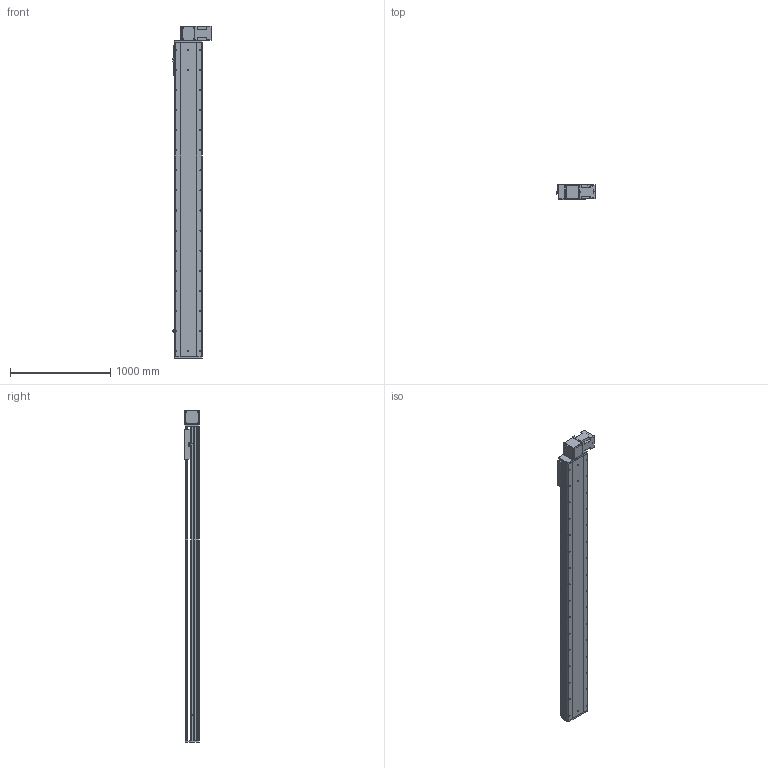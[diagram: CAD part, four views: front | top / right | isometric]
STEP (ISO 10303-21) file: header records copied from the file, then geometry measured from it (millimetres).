
FILE_DESCRIPTION (( 'STEP AP214' ), '1' );
FILE_NAME ('RTB28S-XX-2700-BL-M100-XX-C4.STEP', '2025-12-22T02:35:00', ( '' ), ( '' ), 'SwSTEP 2.0', 'SolidWorks 2018', '' );
FILE_SCHEMA (( 'AUTOMOTIVE_DESIGN' ));
Length unit declared in the file: millimetre
Products named in the file (4): RTB28S-XX-2700-BL-M100-XX-C4; RTB28S-GY-008^RTB28S-XX-XX-BL-M100-XX-C4; RTB28S-GY-004^RTB28S-XX-XX-BL-M100-XX-C4; RTB28S-GY-011^RTB28S-XX-XX-BL-M100-XX-C4
Assembly tree (3 placements, depth 2):
  RTB28S-XX-2700-BL-M100-XX-C4
    RTB28S-GY-011^RTB28S-XX-XX-BL-M100-XX-C4
    RTB28S-GY-004^RTB28S-XX-XX-BL-M100-XX-C4
    RTB28S-GY-008^RTB28S-XX-XX-BL-M100-XX-C4
Bounding box: 380.7 x 145 x 3307 mm (x, y, z)
Volume: 56391900.8 mm3; surface area: 5275909.5 mm2
Topology: 3 solids, 4 shells, 868 faces, 2328 edges, 1488 vertices
Faces by surface type: cylinder 423, plane 361, cone 80, torus 4
Entity records: 33401 total; most frequent: CARTESIAN_POINT 6202, DIRECTION 4950, ORIENTED_EDGE 4592, EDGE_CURVE 2296, AXIS2_PLACEMENT_3D 1820, VERTEX_POINT 1488, VECTOR 1310, LINE 1310
